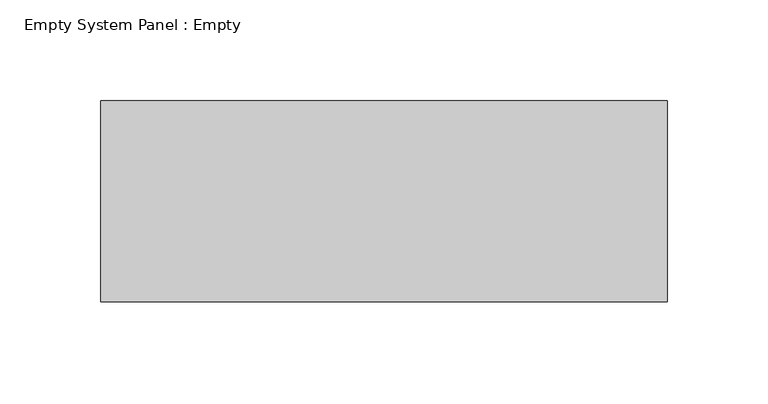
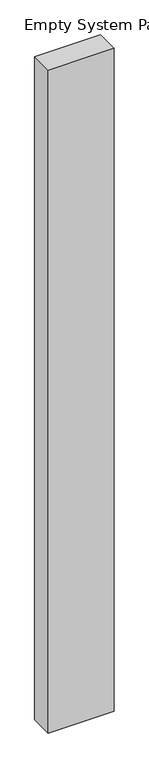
"""IFC4 building model written with IfcOpenShell, lengths in millimetres: plate geometry, Empty System Panel : Empty."""

from ifc_helpers import new_model, si_unit, origin, origin_with_axes, place, context, project, spatial, polyline, outline, extrude, source, transform, mapped, element, save


def empty_system_panel_empty_ba3b3bea(model_context):
    return source(origin(), model_context, "Body", "SweptSolid", [
        extrude(outline(polyline([(140.75, -50.0), (-140.75, -50.0), (-140.75, 50.0), (140.75, 50.0), (140.75, -50.0)])), origin_with_axes(), (0.0, 0.0, 1.0), 3000.0),
    ])


if __name__ == "__main__":
    model = new_model("IFC4")
    model_context = context("Model", 3, world=origin())
    ifc_project = project(units=[si_unit("LENGTHUNIT", "METRE", prefix="MILLI")], contexts=[model_context])
    site = spatial("IfcSite", under=ifc_project)
    building = spatial("IfcBuilding", under=site)
    placement = place(None, origin())
    empty_system_panel_empty_shape = empty_system_panel_empty_ba3b3bea(model_context)
    element("IfcPlate", 1, ObjectType="Empty System Panel : Empty", at=placement, inside=building, context=model_context, shape_type="MappedRepresentation", body=[
        mapped(empty_system_panel_empty_shape, transform((0.0, 0.0, 0.0), x_axis=(1.0, 0.0, 0.0), y_axis=(0.0, 1.0, 0.0), z_axis=(0.0, 0.0, 1.0))),
    ])
    save(model, "model.ifc")
